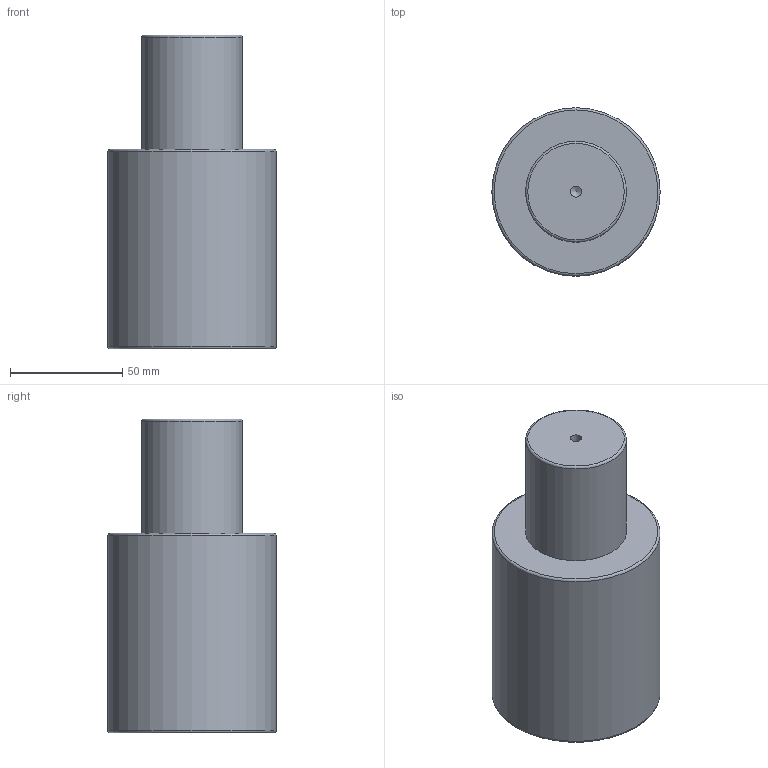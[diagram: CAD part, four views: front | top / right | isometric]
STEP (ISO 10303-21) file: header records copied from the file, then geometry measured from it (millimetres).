
FILE_DESCRIPTION(/* description */ (''),/* implementation_level */ '2;1');
FILE_NAME(/* name */ 'NV5-SMLX.75x50.stp',/* time_stamp */ '2018-08-31T16:08:29+02:00',/* author */ (''),/* organization */ (''),/* preprocessor_version */ 'ST-DEVELOPER v16',/* originating_system */ 'SIEMENS PLM Software NX 10.0',/* authorisation */ '');
FILE_SCHEMA (('AUTOMOTIVE_DESIGN { 1 0 10303 214 3 1 1 1 }'));
Length unit declared in the file: millimetre
Products named in the file (1): NV5-SMLX.75x50
Bounding box: 75 x 75 x 140 mm (x, y, z)
Volume: 472193.2 mm3; surface area: 37588.7 mm2
Topology: 1 solids, 1 shells, 12 faces, 24 edges, 15 vertices
Faces by surface type: cylinder 4, torus 3, plane 3, cone 2
Full cylindrical faces by diameter (mm): 5 x1, 10.3 x1, 45 x1, 75 x1
Entity records: 266 total; most frequent: DIRECTION 48, CARTESIAN_POINT 37, FACE_BOUND 24, AXIS2_PLACEMENT_3D 24, EDGE_LOOP 22, ORIENTED_EDGE 22, VERTEX_POINT 13, ADVANCED_FACE 12
